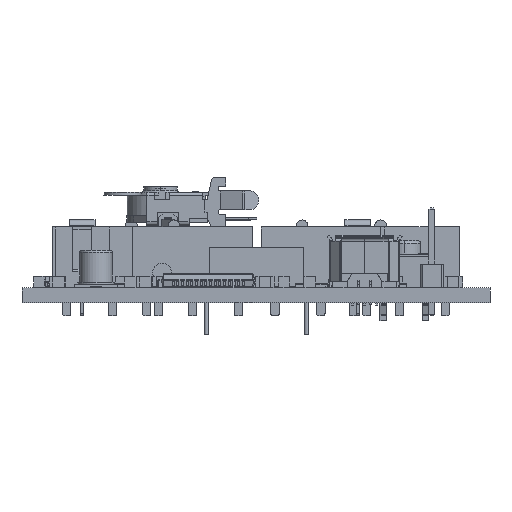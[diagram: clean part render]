
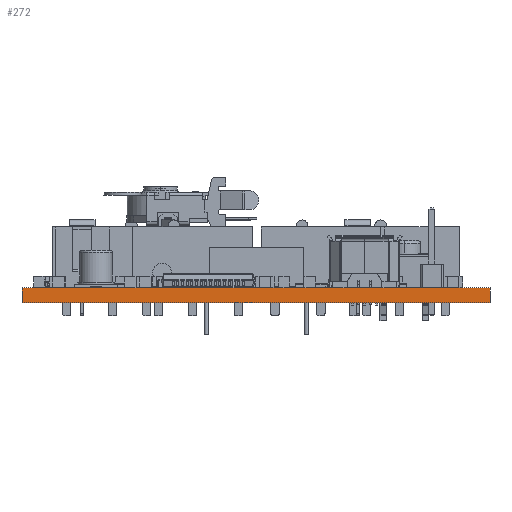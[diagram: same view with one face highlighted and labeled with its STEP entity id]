
A CAD part, front view. The second image highlights one B-rep face of the part: STEP entity #272.
In plain terms, the highlighted planar face has unit normal (0, -1, 0).
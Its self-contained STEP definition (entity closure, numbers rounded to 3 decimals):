
#91 = PLANE('',#92);
#92 = AXIS2_PLACEMENT_3D('',#93,#94,#95);
#93 = CARTESIAN_POINT('',(80.,-30.,0.));
#94 = DIRECTION('',(-1.,-0.,-0.));
#95 = DIRECTION('',(0.,-1.,0.));
#116 = VERTEX_POINT('',#117);
#117 = CARTESIAN_POINT('',(80.,-110.,-1.6));
#131 = PLANE('',#132);
#132 = AXIS2_PLACEMENT_3D('',#133,#134,#135);
#133 = CARTESIAN_POINT('',(55.,-70.,-1.6));
#134 = DIRECTION('',(-0.,-0.,-1.));
#135 = DIRECTION('',(-1.,0.,0.));
#143 = EDGE_CURVE('',#144,#116,#146,.T.);
#144 = VERTEX_POINT('',#145);
#145 = CARTESIAN_POINT('',(80.,-110.,0.));
#146 = SURFACE_CURVE('',#147,(#151,#158),.PCURVE_S1.);
#147 = LINE('',#148,#149);
#148 = CARTESIAN_POINT('',(80.,-110.,0.));
#149 = VECTOR('',#150,1.);
#150 = DIRECTION('',(0.,0.,-1.));
#151 = PCURVE('',#91,#152);
#152 = DEFINITIONAL_REPRESENTATION('',(#153),#157);
#153 = LINE('',#154,#155);
#154 = CARTESIAN_POINT('',(80.,0.));
#155 = VECTOR('',#156,1.);
#156 = DIRECTION('',(0.,-1.));
#157 = ( GEOMETRIC_REPRESENTATION_CONTEXT(2) 
PARAMETRIC_REPRESENTATION_CONTEXT() REPRESENTATION_CONTEXT('2D SPACE',''
  ) );
#158 = PCURVE('',#159,#164);
#159 = PLANE('',#160);
#160 = AXIS2_PLACEMENT_3D('',#161,#162,#163);
#161 = CARTESIAN_POINT('',(80.,-110.,0.));
#162 = DIRECTION('',(0.,1.,0.));
#163 = DIRECTION('',(-1.,0.,0.));
#164 = DEFINITIONAL_REPRESENTATION('',(#165),#169);
#165 = LINE('',#166,#167);
#166 = CARTESIAN_POINT('',(0.,0.));
#167 = VECTOR('',#168,1.);
#168 = DIRECTION('',(0.,-1.));
#169 = ( GEOMETRIC_REPRESENTATION_CONTEXT(2) 
PARAMETRIC_REPRESENTATION_CONTEXT() REPRESENTATION_CONTEXT('2D SPACE',''
  ) );
#185 = PLANE('',#186);
#186 = AXIS2_PLACEMENT_3D('',#187,#188,#189);
#187 = CARTESIAN_POINT('',(55.,-70.,0.));
#188 = DIRECTION('',(-0.,-0.,-1.));
#189 = DIRECTION('',(-1.,0.,0.));
#218 = PLANE('',#219);
#219 = AXIS2_PLACEMENT_3D('',#220,#221,#222);
#220 = CARTESIAN_POINT('',(30.,-110.,0.));
#221 = DIRECTION('',(1.,-0.,0.));
#222 = DIRECTION('',(0.,1.,0.));
#272 = ADVANCED_FACE('',(#273),#159,.F.);
#273 = FACE_BOUND('',#274,.F.);
#274 = EDGE_LOOP('',(#275,#276,#299,#322));
#275 = ORIENTED_EDGE('',*,*,#143,.T.);
#276 = ORIENTED_EDGE('',*,*,#277,.T.);
#277 = EDGE_CURVE('',#116,#278,#280,.T.);
#278 = VERTEX_POINT('',#279);
#279 = CARTESIAN_POINT('',(30.,-110.,-1.6));
#280 = SURFACE_CURVE('',#281,(#285,#292),.PCURVE_S1.);
#281 = LINE('',#282,#283);
#282 = CARTESIAN_POINT('',(80.,-110.,-1.6));
#283 = VECTOR('',#284,1.);
#284 = DIRECTION('',(-1.,0.,0.));
#285 = PCURVE('',#159,#286);
#286 = DEFINITIONAL_REPRESENTATION('',(#287),#291);
#287 = LINE('',#288,#289);
#288 = CARTESIAN_POINT('',(0.,-1.6));
#289 = VECTOR('',#290,1.);
#290 = DIRECTION('',(1.,0.));
#291 = ( GEOMETRIC_REPRESENTATION_CONTEXT(2) 
PARAMETRIC_REPRESENTATION_CONTEXT() REPRESENTATION_CONTEXT('2D SPACE',''
  ) );
#292 = PCURVE('',#131,#293);
#293 = DEFINITIONAL_REPRESENTATION('',(#294),#298);
#294 = LINE('',#295,#296);
#295 = CARTESIAN_POINT('',(-25.,-40.));
#296 = VECTOR('',#297,1.);
#297 = DIRECTION('',(1.,0.));
#298 = ( GEOMETRIC_REPRESENTATION_CONTEXT(2) 
PARAMETRIC_REPRESENTATION_CONTEXT() REPRESENTATION_CONTEXT('2D SPACE',''
  ) );
#299 = ORIENTED_EDGE('',*,*,#300,.F.);
#300 = EDGE_CURVE('',#301,#278,#303,.T.);
#301 = VERTEX_POINT('',#302);
#302 = CARTESIAN_POINT('',(30.,-110.,0.));
#303 = SURFACE_CURVE('',#304,(#308,#315),.PCURVE_S1.);
#304 = LINE('',#305,#306);
#305 = CARTESIAN_POINT('',(30.,-110.,0.));
#306 = VECTOR('',#307,1.);
#307 = DIRECTION('',(0.,0.,-1.));
#308 = PCURVE('',#159,#309);
#309 = DEFINITIONAL_REPRESENTATION('',(#310),#314);
#310 = LINE('',#311,#312);
#311 = CARTESIAN_POINT('',(50.,0.));
#312 = VECTOR('',#313,1.);
#313 = DIRECTION('',(0.,-1.));
#314 = ( GEOMETRIC_REPRESENTATION_CONTEXT(2) 
PARAMETRIC_REPRESENTATION_CONTEXT() REPRESENTATION_CONTEXT('2D SPACE',''
  ) );
#315 = PCURVE('',#218,#316);
#316 = DEFINITIONAL_REPRESENTATION('',(#317),#321);
#317 = LINE('',#318,#319);
#318 = CARTESIAN_POINT('',(0.,0.));
#319 = VECTOR('',#320,1.);
#320 = DIRECTION('',(0.,-1.));
#321 = ( GEOMETRIC_REPRESENTATION_CONTEXT(2) 
PARAMETRIC_REPRESENTATION_CONTEXT() REPRESENTATION_CONTEXT('2D SPACE',''
  ) );
#322 = ORIENTED_EDGE('',*,*,#323,.F.);
#323 = EDGE_CURVE('',#144,#301,#324,.T.);
#324 = SURFACE_CURVE('',#325,(#329,#336),.PCURVE_S1.);
#325 = LINE('',#326,#327);
#326 = CARTESIAN_POINT('',(80.,-110.,0.));
#327 = VECTOR('',#328,1.);
#328 = DIRECTION('',(-1.,0.,0.));
#329 = PCURVE('',#159,#330);
#330 = DEFINITIONAL_REPRESENTATION('',(#331),#335);
#331 = LINE('',#332,#333);
#332 = CARTESIAN_POINT('',(0.,0.));
#333 = VECTOR('',#334,1.);
#334 = DIRECTION('',(1.,0.));
#335 = ( GEOMETRIC_REPRESENTATION_CONTEXT(2) 
PARAMETRIC_REPRESENTATION_CONTEXT() REPRESENTATION_CONTEXT('2D SPACE',''
  ) );
#336 = PCURVE('',#185,#337);
#337 = DEFINITIONAL_REPRESENTATION('',(#338),#342);
#338 = LINE('',#339,#340);
#339 = CARTESIAN_POINT('',(-25.,-40.));
#340 = VECTOR('',#341,1.);
#341 = DIRECTION('',(1.,0.));
#342 = ( GEOMETRIC_REPRESENTATION_CONTEXT(2) 
PARAMETRIC_REPRESENTATION_CONTEXT() REPRESENTATION_CONTEXT('2D SPACE',''
  ) );
